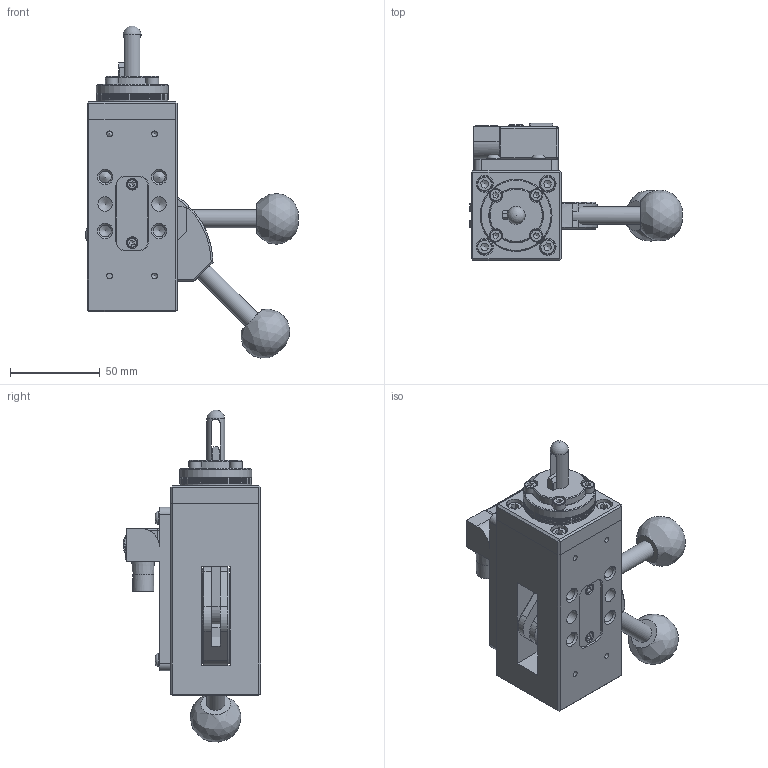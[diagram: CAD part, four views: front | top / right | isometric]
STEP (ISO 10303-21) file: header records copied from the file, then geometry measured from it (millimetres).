
FILE_DESCRIPTION(/* description */ (''),/* implementation_level */ '2;1');
FILE_NAME(/* name */ 'S:\Tom\INVENTOR FILES\AUTOMOTIVE\UNDERBODY CLAMPS\XPCB\SIMPLIFIED MODELS\STEP\XPCB-10-01-ES1-R.stp',/* time_stamp */ '2021-06-08T09:51:10+01:00',/* author */ ('RWilson'),/* organization */ (''),/* preprocessor_version */ 'ST-DEVELOPER v18.1',/* originating_system */ 'Autodesk Inventor 2021',/* authorisation */ '');
FILE_SCHEMA (('AUTOMOTIVE_DESIGN { 1 0 10303 214 3 1 1 }'));
Length unit declared in the file: millimetre
Products named in the file (10): XPCB-10-01-ES1-R; XPCB - BODY; XPCB - HANDLE; XPCB - TOP PLATE; XPCB - 1MM SHIM; XPCB - 0.5MM SHIM; XPCB - 10MM CLAMPING RING & PIN; XPCB - 10MM HOOK; XPCB - BLANKING COVER; XPCB - SWITCH ASSEMBLY
Assembly tree (13 placements, depth 2):
  XPCB-10-01-ES1-R
    XPCB - BODY
    XPCB - HANDLE  x2
    XPCB - TOP PLATE
    XPCB - 0.5MM SHIM  x2
    XPCB - 1MM SHIM  x3
    XPCB - 10MM CLAMPING RING & PIN
    XPCB - 10MM HOOK
    XPCB - BLANKING COVER
    XPCB - SWITCH ASSEMBLY
Bounding box: 118.37 x 76.31 x 184.64 mm (x, y, z)
Volume: 371390.4 mm3; surface area: 116540.4 mm2
Topology: 13 solids, 27 shells, 828 faces, 2139 edges, 1393 vertices
Faces by surface type: plane 382, cylinder 255, cone 123, torus 27, sphere 21, bspline 20
Full cylindrical faces by diameter (mm): 0.7 x8, 1.7 x1, 1.8 x2, 2 x1, 2.459 x6, 2.5 x3, 2.8 x2, 3 x4, 3.2 x2, 3.242 x8, 4 x8, 4.134 x1, 4.3 x2, 4.5 x4, 4.917 x3, 5 x4, 5.3 x1, 5.5 x2, 6 x3, 6.5 x2, 6.6 x3, 6.647 x12, 7 x4, 7.6 x4, 8 x6, 8.376 x2, 8.5 x5, 9 x3, 9.5 x4, 10 x5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
Entity records: 23921 total; most frequent: CARTESIAN_POINT 4870, DIRECTION 4092, ORIENTED_EDGE 3808, EDGE_CURVE 1904, AXIS2_PLACEMENT_3D 1583, VERTEX_POINT 1291, LINE 926, VECTOR 926
